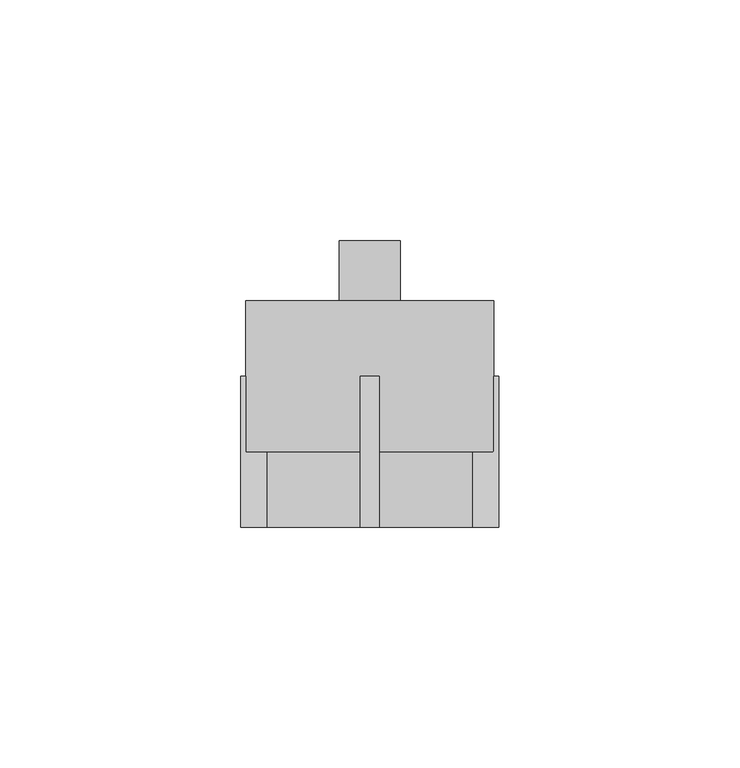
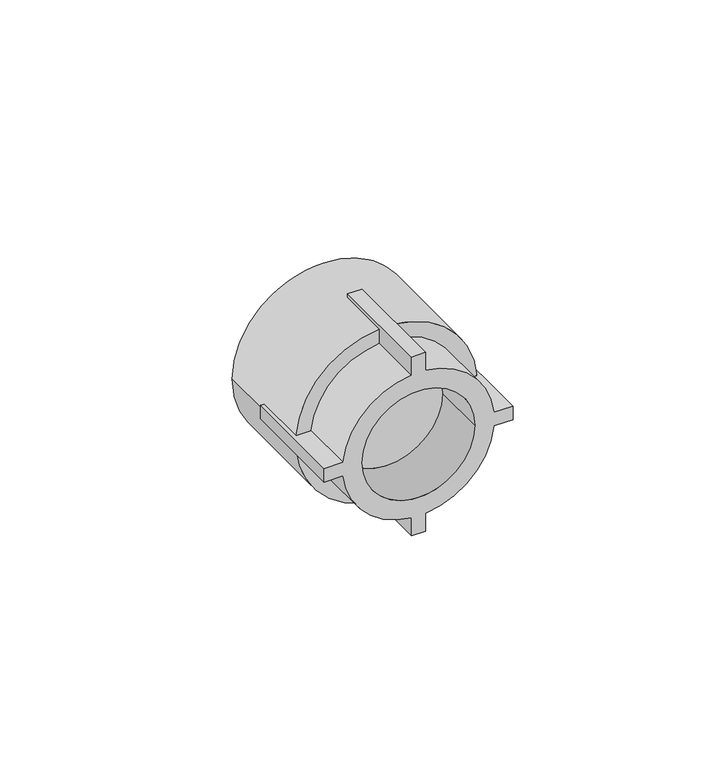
"""IFC4 building model written with IfcOpenShell, lengths in millimetres: pipe fitting geometry, EGB_VASEN_ PPR_Entronque rosca macho WXR101 : Entronque rosca macho WXR101."""

from ifc_helpers import new_model, si_unit, point, frame, origin, origin_2d, place, context, project, spatial, polyline, circle_curve, trimmed, segment, composite_curve, outline, extrude, source, transform, mapped, element, save
from ifc_brep_helpers import plane_surface, cylinder_surface, revolved_surface, advanced_brep


def pipe_fitting_b637b950(model_context):
    return source(origin(), model_context, "Body", "SolidModel", [
        advanced_brep(
        [(2.0, -15.6666667, 26.8), (-2.0, -15.6666667, 26.8), (-2.0, -15.6666667, 21.4067746), (-21.4067746, -15.6666667, 2.0), (-26.8, -15.6666667, 2.0), (-26.8, -15.6666667, -2.0), (-21.4067746, -15.6666667, -2.0), (-2.0, -15.6666667, -21.4067746), (-2.0, -15.6666667, -26.8), (2.0, -15.6666667, -26.8), (2.0, -15.6666667, -21.4067746), (21.4067746, -15.6666667, -2.0), (26.8, -15.6666667, -2.0), (26.8, -15.6666667, 2.0), (21.4067746, -15.6666667, 2.0), (2.0, -15.6666667, 21.4067746), (-16.0, -15.6666667, 0.0), (16.0, -15.6666667, 0.0), (-2.0, 15.6666667, 26.8), (2.0, 15.6666667, 26.8), (2.0, 15.6666667, 25.7223638), (-2.0, 15.6666667, 25.7223638), (2.0, 15.6666667, -26.8), (-2.0, 15.6666667, -26.8), (-2.0, 15.6666667, -25.7223638), (2.0, 15.6666667, -25.7223638), (26.8, 15.6666667, 2.0), (26.8, 15.6666667, -2.0), (25.7223638, 15.6666667, -2.0), (25.8, 15.6666667, 0.0), (25.7223638, 15.6666667, 2.0), (-26.8, 15.6666667, -2.0), (-26.8, 15.6666667, 2.0), (-25.7223638, 15.6666667, 2.0), (-25.8, 15.6666667, 0.0), (-25.7223638, 15.6666667, -2.0), (2.0, 0.0, 21.4067746), (2.0, 0.0, 25.7223638), (-2.0, 0.0, 25.7223638), (-2.0, 0.0, 21.4067746), (2.0, 0.0, -25.7223638), (2.0, 0.0, -21.4067746), (-2.0, 0.0, -21.4067746), (-2.0, 0.0, -25.7223638), (21.4067746, 0.0, -2.0), (25.7223638, 0.0, -2.0), (25.7223638, 0.0, 2.0), (21.4067746, 0.0, 2.0), (-25.7223638, 0.0, -2.0), (-21.4067746, 0.0, -2.0), (-21.4067746, 0.0, 2.0), (-25.7223638, 0.0, 2.0), (-16.0, 0.0, 0.0), (16.0, 0.0, 0.0), (-25.8, 31.3333333, 0.0), (25.8, 31.3333333, 0.0)],
        [
            (0, 1),
            (1, 2),
            (2, 3, circle_curve(frame((0.0, -15.6666667, 0.0), z_axis=(0.0, -1.0, 0.0), x_axis=(1.0, 0.0, 0.0)), 21.5)),
            (3, 4),
            (4, 5),
            (5, 6),
            (6, 7, circle_curve(frame((0.0, -15.6666667, 0.0), z_axis=(0.0, -1.0, 0.0), x_axis=(1.0, 0.0, 0.0)), 21.5)),
            (7, 8),
            (8, 9),
            (9, 10),
            (10, 11, circle_curve(frame((0.0, -15.6666667, 0.0), z_axis=(0.0, -1.0, 0.0), x_axis=(1.0, 0.0, 0.0)), 21.5)),
            (11, 12),
            (12, 13),
            (13, 14),
            (14, 15, circle_curve(frame((0.0, -15.6666667, 0.0), z_axis=(0.0, -1.0, 0.0), x_axis=(1.0, 0.0, 0.0)), 21.5)),
            (15, 0),
            (16, 17, circle_curve(frame((0.0, -15.6666667, 0.0), z_axis=(0.0, 1.0, 0.0), x_axis=(1.0, 0.0, 0.0)), 16.0)),
            (17, 16, circle_curve(frame((0.0, -15.6666667, 0.0), z_axis=(0.0, 1.0, 0.0), x_axis=(1.0, 0.0, 0.0)), 16.0)),
            (18, 19),
            (19, 20),
            (20, 21, circle_curve(frame((0.0, 15.6666667, 0.0), z_axis=(0.0, -1.0, 0.0), x_axis=(1.0, 0.0, 0.0)), 25.8)),
            (21, 18),
            (22, 23),
            (23, 24),
            (24, 25, circle_curve(frame((0.0, 15.6666667, 0.0), z_axis=(0.0, -1.0, 0.0), x_axis=(1.0, 0.0, 0.0)), 25.8)),
            (25, 22),
            (26, 27),
            (27, 28),
            (28, 29, circle_curve(frame((0.0, 15.6666667, 0.0), z_axis=(0.0, -1.0, 0.0), x_axis=(1.0, 0.0, 0.0)), 25.8)),
            (29, 30, circle_curve(frame((0.0, 15.6666667, 0.0), z_axis=(0.0, -1.0, 0.0), x_axis=(1.0, 0.0, 0.0)), 25.8)),
            (30, 26),
            (31, 32),
            (32, 33),
            (33, 34, circle_curve(frame((0.0, 15.6666667, 0.0), z_axis=(0.0, -1.0, 0.0), x_axis=(1.0, 0.0, 0.0)), 25.8)),
            (34, 35, circle_curve(frame((0.0, 15.6666667, 0.0), z_axis=(0.0, -1.0, 0.0), x_axis=(1.0, 0.0, 0.0)), 25.8)),
            (35, 31),
            (19, 0),
            (15, 36),
            (36, 37),
            (37, 20),
            (18, 1),
            (21, 38),
            (38, 39),
            (39, 2),
            (8, 23),
            (22, 9),
            (25, 40),
            (40, 41),
            (41, 10),
            (7, 42),
            (42, 43),
            (43, 24),
            (27, 12),
            (11, 44),
            (44, 45),
            (45, 28),
            (26, 13),
            (30, 46),
            (46, 47),
            (47, 14),
            (5, 31),
            (35, 48),
            (48, 49),
            (49, 6),
            (32, 4),
            (3, 50),
            (50, 51),
            (51, 33),
            (49, 42, circle_curve(frame((0.0, 0.0, 0.0), z_axis=(0.0, -1.0, 0.0), x_axis=(1.0, 0.0, 0.0)), 21.5)),
            (41, 44, circle_curve(frame((0.0, 0.0, 0.0), z_axis=(0.0, -1.0, 0.0), x_axis=(1.0, 0.0, 0.0)), 21.5)),
            (39, 50, circle_curve(frame((0.0, 0.0, 0.0), z_axis=(0.0, -1.0, 0.0), x_axis=(1.0, 0.0, 0.0)), 21.5)),
            (47, 36, circle_curve(frame((0.0, 0.0, 0.0), z_axis=(0.0, -1.0, 0.0), x_axis=(1.0, 0.0, 0.0)), 21.5)),
            (16, 52),
            (52, 53, circle_curve(frame((0.0, 0.0, 0.0), z_axis=(0.0, 1.0, 0.0), x_axis=(1.0, 0.0, 0.0)), 16.0)),
            (53, 17),
            (53, 52, circle_curve(frame((0.0, 0.0, 0.0), z_axis=(0.0, 1.0, 0.0), x_axis=(1.0, 0.0, 0.0)), 16.0)),
            (40, 45, circle_curve(frame((0.0, 0.0, 0.0), z_axis=(0.0, -1.0, 0.0), x_axis=(1.0, 0.0, 0.0)), 25.8)),
            (48, 43, circle_curve(frame((0.0, 0.0, 0.0), z_axis=(0.0, -1.0, 0.0), x_axis=(1.0, 0.0, 0.0)), 25.8)),
            (46, 37, circle_curve(frame((0.0, 0.0, 0.0), z_axis=(0.0, -1.0, 0.0), x_axis=(1.0, 0.0, 0.0)), 25.8)),
            (38, 51, circle_curve(frame((0.0, 0.0, 0.0), z_axis=(0.0, -1.0, 0.0), x_axis=(1.0, 0.0, 0.0)), 25.8)),
            (54, 55, circle_curve(frame((0.0, 31.3333333, 0.0), z_axis=(0.0, 1.0, 0.0), x_axis=(1.0, 0.0, 0.0)), 25.8)),
            (55, 54, circle_curve(frame((0.0, 31.3333333, 0.0), z_axis=(0.0, 1.0, 0.0), x_axis=(1.0, 0.0, 0.0)), 25.8)),
            (55, 29),
            (34, 54),
        ],
        [
            plane_surface(frame((0.0, -15.6666667, 0.0), z_axis=(0.0, -1.0, 0.0), x_axis=(0.0, 0.0, 1.0))),
            plane_surface(frame((0.0, 15.6666667, 0.0), z_axis=(0.0, 1.0, 0.0), x_axis=(0.0, 0.0, 1.0))),
            plane_surface(frame((2.0, -15.6666667, 20.5), z_axis=(1.0, 0.0, 0.0), x_axis=(0.0, 1.0, 0.0))),
            plane_surface(frame((2.0, -15.6666667, 26.8), z_axis=(0.0, 0.0, 1.0), x_axis=(0.0, 1.0, 0.0))),
            plane_surface(frame((-2.0, -15.6666667, 26.8), z_axis=(-1.0, 0.0, 0.0), x_axis=(0.0, 1.0, 0.0))),
            plane_surface(frame((-2.0, -15.6666667, -26.8), z_axis=(0.0, 0.0, -1.0), x_axis=(0.0, 1.0, 0.0))),
            plane_surface(frame((2.0, -15.6666667, -26.8), z_axis=(1.0, 0.0, 0.0), x_axis=(0.0, 1.0, 0.0))),
            plane_surface(frame((-2.0, -15.6666667, -20.5), z_axis=(-1.0, 0.0, 0.0), x_axis=(0.0, 1.0, 0.0))),
            plane_surface(frame((20.5, -15.6666667, -2.0), z_axis=(0.0, 0.0, -1.0), x_axis=(0.0, 1.0, 0.0))),
            plane_surface(frame((26.8, -15.6666667, -2.0), z_axis=(1.0, 0.0, 0.0), x_axis=(0.0, 1.0, 0.0))),
            plane_surface(frame((26.8, -15.6666667, 2.0), z_axis=(0.0, 0.0, 1.0), x_axis=(0.0, 1.0, 0.0))),
            plane_surface(frame((-26.8, -15.6666667, -2.0), z_axis=(0.0, 0.0, -1.0), x_axis=(0.0, 1.0, 0.0))),
            plane_surface(frame((-20.5, -15.6666667, 2.0), z_axis=(0.0, 0.0, 1.0), x_axis=(0.0, 1.0, 0.0))),
            plane_surface(frame((-26.8, -15.6666667, 2.0), z_axis=(-1.0, 0.0, 0.0), x_axis=(0.0, 1.0, 0.0))),
            cylinder_surface(frame((0.0, 0.0, 0.0), z_axis=(0.0, -1.0, 0.0), x_axis=(1.0, 0.0, 0.0)), 21.5),
            revolved_surface(polyline([(16.0, 0.0, 0.0), (16.0, -15.6666667, 0.0)]), (0.0, 0.0, 0.0), (0.0, 1.0, 0.0)),
            plane_surface(frame((25.8, 0.0, 0.0), z_axis=(0.0, -1.0, 0.0), x_axis=(0.0, 0.0, 1.0))),
            plane_surface(frame((25.8, 31.3333333, 0.0), z_axis=(0.0, 1.0, 0.0), x_axis=(0.0, 0.0, -1.0))),
            cylinder_surface(frame((0.0, 31.3333333, 0.0), z_axis=(0.0, -1.0, 0.0), x_axis=(1.0, 0.0, 0.0)), 25.8),
        ],
        [
            (0, [[1, 2, 3, 4, 5, 6, 7, 8, 9, 10, 11, 12, 13, 14, 15, 16], [17, 18]]),
            (1, [[19, 20, 21, 22]]),
            (1, [[23, 24, 25, 26]]),
            (1, [[27, 28, 29, 30, 31]]),
            (1, [[32, 33, 34, 35, 36]]),
            (2, [[37, -16, 38, 39, 40, -20]]),
            (3, [[-1, -37, -19, 41]]),
            (4, [[-41, -22, 42, 43, 44, -2]]),
            (5, [[-9, 45, -23, 46]]),
            (6, [[-46, -26, 47, 48, 49, -10]]),
            (7, [[-45, -8, 50, 51, 52, -24]]),
            (8, [[53, -12, 54, 55, 56, -28]]),
            (9, [[-13, -53, -27, 57]]),
            (10, [[-57, -31, 58, 59, 60, -14]]),
            (11, [[61, -36, 62, 63, 64, -6]]),
            (12, [[65, -4, 66, 67, 68, -33]]),
            (13, [[-5, -65, -32, -61]]),
            (14, [[-7, -64, 69, -50]]),
            (14, [[-11, -49, 70, -54]]),
            (14, [[-3, -44, 71, -66]]),
            (14, [[-15, -60, 72, -38]]),
            (15, [[-17, 73, 74, 75]]),
            (15, [[-18, -75, 76, -73]]),
            (16, [[-74, -76]]),
            (16, [[77, -55, -70, -48]]),
            (16, [[78, -51, -69, -63]]),
            (16, [[79, -39, -72, -59]]),
            (16, [[80, -67, -71, -43]]),
            (17, [[81, 82]]),
            (18, [[-82, 83, -29, -56, -77, -47, -25, -52, -78, -62, -35, 84]]),
            (18, [[-81, -84, -34, -68, -80, -42, -21, -40, -79, -58, -30, -83]]),
        ],
    ),
        extrude(outline(composite_curve([segment(trimmed(circle_curve(origin_2d(), 6.35), [point((0.0, -6.35))], [point((0.0, 6.35))], False, "CARTESIAN"), True, "CONTINUOUS"), segment(trimmed(circle_curve(origin_2d(), 6.35), [point((0.0, 6.35))], [point((0.0, -6.35))], False, "CARTESIAN"), True, "CONTINUOUS")], self_intersect=False)), frame((0.0, 15.6666667, 0.0), z_axis=(0.0, 1.0, 0.0), x_axis=(0.0, 0.0, 1.0)), (0.0, 0.0, 1.0), 28.1666667),
    ])


if __name__ == "__main__":
    model = new_model("IFC4")
    model_context = context("Model", 3, world=origin())
    ifc_project = project(units=[si_unit("LENGTHUNIT", "METRE", prefix="MILLI")], contexts=[model_context])
    site = spatial("IfcSite", under=ifc_project)
    building = spatial("IfcBuilding", under=site)
    placement = place(None, origin())
    pipe_fitting_shape = pipe_fitting_b637b950(model_context)
    element("IfcPipeFitting", 1, ObjectType="EGB_VASEN_ PPR_Entronque rosca macho WXR101 : Entronque rosca macho WXR101", at=placement, inside=building, context=model_context, shape_type="MappedRepresentation", body=[
        mapped(pipe_fitting_shape, transform((0.0, 0.0, 0.0), x_axis=(1.0, 0.0, 0.0), y_axis=(0.0, 1.0, 0.0), z_axis=(0.0, 0.0, 1.0))),
    ])
    save(model, "model.ifc")
